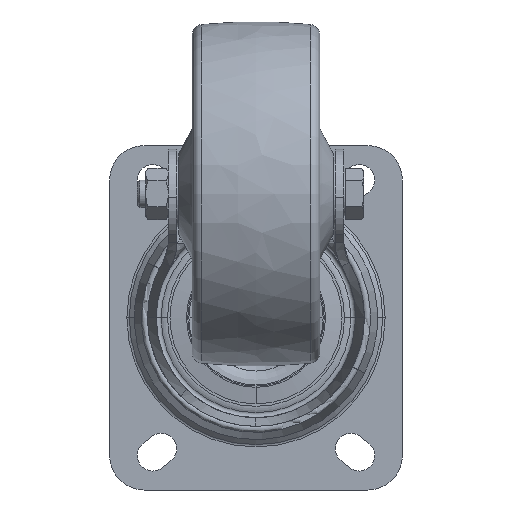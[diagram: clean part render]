
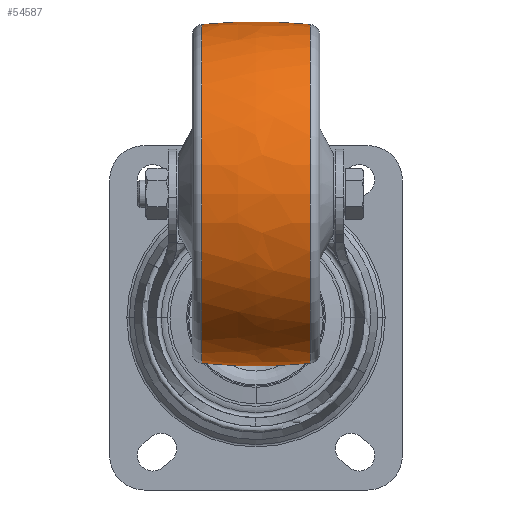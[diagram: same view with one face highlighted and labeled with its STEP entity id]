
A CAD part, front view. The second image highlights one B-rep face of the part: STEP entity #54587.
In plain terms, the highlighted free-form (B-spline) face has degree [3, 3] with [7, 4] control points.
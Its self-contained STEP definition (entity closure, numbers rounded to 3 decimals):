
#1588 = ORIENTED_EDGE ( 'NONE', *, *, #38680, .T. ) ;
#3301 = CARTESIAN_POINT ( 'NONE',  ( -16.446, 48.999, -3.083 ) ) ;
#3537 = CARTESIAN_POINT ( 'NONE',  ( 16.446, 30.213, 49.096 ) ) ;
#3741 = CARTESIAN_POINT ( 'NONE',  ( 5.504, 52.147, 27.737 ) ) ;
#4303 =( BOUNDED_SURFACE ( )  B_SPLINE_SURFACE ( 3, 3, ( 
 ( #3301, #19362, #8934, #44246 ),
 ( #29353, #24011, #3741, #24437 ),
 ( #19565, #14239, #9150, #3537 ),
 ( #49350, #38929, #55084, #39780 ),
 ( #49141, #28675, #33815, #44460 ),
 ( #29569, #44032, #14017, #13572 ),
 ( #64367, #34018, #49584, #44671 ) ),
 .UNSPECIFIED., .F., .F., .T. ) 
 B_SPLINE_SURFACE_WITH_KNOTS ( ( 4, 3, 4 ),
 ( 4, 4 ),
 ( 0., 1., 2. ),
 ( 0., 1. ),
 .UNSPECIFIED. ) 
 GEOMETRIC_REPRESENTATION_ITEM ( )  RATIONAL_B_SPLINE_SURFACE ( (
 ( 1.191, 1.186, 1.186, 1.191),
 ( 0.94, 0.937, 0.937, 0.94),
 ( 0.94, 0.937, 0.937, 0.94),
 ( 1.191, 1.186, 1.186, 1.191),
 ( 0.94, 0.937, 0.937, 0.94),
 ( 0.94, 0.937, 0.937, 0.94),
 ( 1.191, 1.186, 1.186, 1.191) ) ) 
 REPRESENTATION_ITEM ( '' )  SURFACE ( )  );
#5394 = CIRCLE ( 'NONE', #56166, 150. ) ;
#5763 = DIRECTION ( 'NONE',  ( 0.105, 0.994, 0. ) ) ;
#5944 = AXIS2_PLACEMENT_3D ( 'NONE', #42814, #7508, #27480 ) ;
#6604 = DIRECTION ( 'NONE',  ( 0.105, -0.994, 0. ) ) ;
#7508 = DIRECTION ( 'NONE',  ( 1., 0., 0. ) ) ;
#8716 = CIRCLE ( 'NONE', #47065, 49.164 ) ;
#8934 = CARTESIAN_POINT ( 'NONE',  ( 5.504, 50.203, -3.159 ) ) ;
#9150 = CARTESIAN_POINT ( 'NONE',  ( 5.504, 30.956, 50.303 ) ) ;
#13572 = CARTESIAN_POINT ( 'NONE',  ( 16.446, -50.896, 27.071 ) ) ;
#14017 = CARTESIAN_POINT ( 'NONE',  ( 5.504, -52.147, 27.737 ) ) ;
#14164 = VERTEX_POINT ( 'NONE', #63853 ) ;
#14239 = CARTESIAN_POINT ( 'NONE',  ( -5.504, 30.956, 50.303 ) ) ;
#14725 = CIRCLE ( 'NONE', #39749, 150. ) ;
#19362 = CARTESIAN_POINT ( 'NONE',  ( -5.504, 50.203, -3.159 ) ) ;
#19565 = CARTESIAN_POINT ( 'NONE',  ( -16.446, 30.213, 49.096 ) ) ;
#20437 = DIRECTION ( 'NONE',  ( 0., 1., 0. ) ) ;
#20788 = VERTEX_POINT ( 'NONE', #45944 ) ;
#21415 = CARTESIAN_POINT ( 'NONE',  ( 15.816, 49.164, 0. ) ) ;
#21791 = CARTESIAN_POINT ( 'NONE',  ( 0., -100., 0. ) ) ;
#24011 = CARTESIAN_POINT ( 'NONE',  ( -5.504, 52.147, 27.737 ) ) ;
#24437 = CARTESIAN_POINT ( 'NONE',  ( 16.446, 50.896, 27.071 ) ) ;
#26356 = DIRECTION ( 'NONE',  ( 0., 0., -1. ) ) ;
#27480 = DIRECTION ( 'NONE',  ( 0., 1., 0. ) ) ;
#28646 = EDGE_CURVE ( 'NONE', #65014, #14164, #8716, .T. ) ;
#28675 = CARTESIAN_POINT ( 'NONE',  ( -5.504, -30.956, 50.303 ) ) ;
#29353 = CARTESIAN_POINT ( 'NONE',  ( -16.446, 50.896, 27.071 ) ) ;
#29569 = CARTESIAN_POINT ( 'NONE',  ( -16.446, -50.896, 27.071 ) ) ;
#33815 = CARTESIAN_POINT ( 'NONE',  ( 5.504, -30.956, 50.303 ) ) ;
#34018 = CARTESIAN_POINT ( 'NONE',  ( -5.504, -50.203, -3.159 ) ) ;
#34602 = EDGE_CURVE ( 'NONE', #20788, #48624, #41268, .T. ) ;
#36225 = CARTESIAN_POINT ( 'NONE',  ( 0., 100., 0. ) ) ;
#38680 = EDGE_CURVE ( 'NONE', #65014, #20788, #14725, .T. ) ;
#38929 = CARTESIAN_POINT ( 'NONE',  ( -5.504, 0., 50.303 ) ) ;
#39169 = EDGE_LOOP ( 'NONE', ( #40938, #50658, #51696, #1588 ) ) ;
#39458 = CARTESIAN_POINT ( 'NONE',  ( -15.816, -49.164, 0. ) ) ;
#39749 = AXIS2_PLACEMENT_3D ( 'NONE', #21791, #56381, #5763 ) ;
#39780 = CARTESIAN_POINT ( 'NONE',  ( 16.446, 0., 49.096 ) ) ;
#40938 = ORIENTED_EDGE ( 'NONE', *, *, #34602, .T. ) ;
#41268 = CIRCLE ( 'NONE', #5944, 49.164 ) ;
#42814 = CARTESIAN_POINT ( 'NONE',  ( -15.816, 0., 0. ) ) ;
#44032 = CARTESIAN_POINT ( 'NONE',  ( -5.504, -52.147, 27.737 ) ) ;
#44246 = CARTESIAN_POINT ( 'NONE',  ( 16.446, 48.999, -3.083 ) ) ;
#44460 = CARTESIAN_POINT ( 'NONE',  ( 16.446, -30.213, 49.096 ) ) ;
#44671 = CARTESIAN_POINT ( 'NONE',  ( 16.446, -48.999, -3.083 ) ) ;
#45944 = CARTESIAN_POINT ( 'NONE',  ( -15.816, 49.164, 0. ) ) ;
#47065 = AXIS2_PLACEMENT_3D ( 'NONE', #61018, #65249, #20437 ) ;
#48624 = VERTEX_POINT ( 'NONE', #39458 ) ;
#49141 = CARTESIAN_POINT ( 'NONE',  ( -16.446, -30.213, 49.096 ) ) ;
#49350 = CARTESIAN_POINT ( 'NONE',  ( -16.446, 0., 49.096 ) ) ;
#49584 = CARTESIAN_POINT ( 'NONE',  ( 5.504, -50.203, -3.159 ) ) ;
#50658 = ORIENTED_EDGE ( 'NONE', *, *, #65878, .F. ) ;
#51696 = ORIENTED_EDGE ( 'NONE', *, *, #28646, .F. ) ;
#54587 = ADVANCED_FACE ( 'NONE', ( #61642 ), #4303, .T. ) ;
#55084 = CARTESIAN_POINT ( 'NONE',  ( 5.504, 0., 50.303 ) ) ;
#56166 = AXIS2_PLACEMENT_3D ( 'NONE', #36225, #26356, #6604 ) ;
#56381 = DIRECTION ( 'NONE',  ( 0., 0., 1. ) ) ;
#61018 = CARTESIAN_POINT ( 'NONE',  ( 15.816, 0., 0. ) ) ;
#61642 = FACE_OUTER_BOUND ( 'NONE', #39169, .T. ) ;
#63853 = CARTESIAN_POINT ( 'NONE',  ( 15.816, -49.164, 0. ) ) ;
#64367 = CARTESIAN_POINT ( 'NONE',  ( -16.446, -48.999, -3.083 ) ) ;
#65014 = VERTEX_POINT ( 'NONE', #21415 ) ;
#65249 = DIRECTION ( 'NONE',  ( 1., 0., 0. ) ) ;
#65878 = EDGE_CURVE ( 'NONE', #14164, #48624, #5394, .T. ) ;
